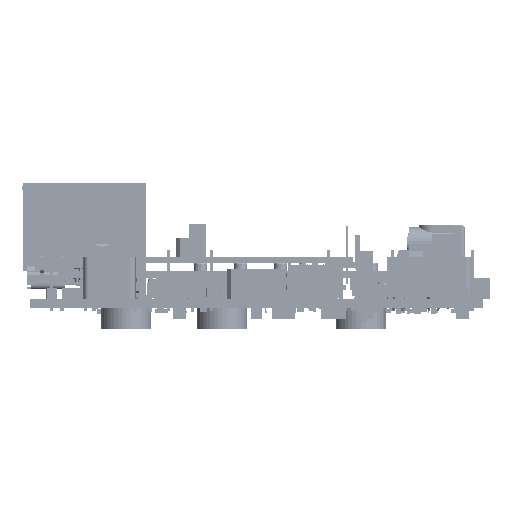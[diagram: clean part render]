
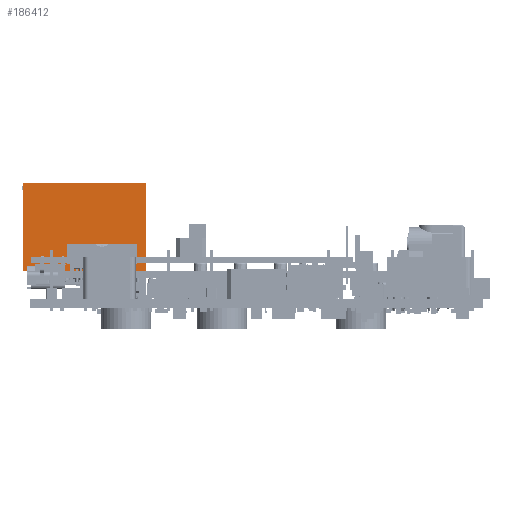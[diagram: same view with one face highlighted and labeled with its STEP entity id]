
A CAD part, left-side view. The second image highlights one B-rep face of the part: STEP entity #186412.
In plain terms, the highlighted planar face has unit normal (-1, 0, 0).
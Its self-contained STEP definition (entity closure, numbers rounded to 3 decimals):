
#186307 = PLANE('',#186308);
#186308 = AXIS2_PLACEMENT_3D('',#186309,#186310,#186311);
#186309 = CARTESIAN_POINT('',(0.064,14.669,0.));
#186310 = DIRECTION('',(0.,-1.,0.));
#186311 = DIRECTION('',(-1.,0.,0.));
#186332 = VERTEX_POINT('',#186333);
#186333 = CARTESIAN_POINT('',(-0.064,14.669,21.082));
#186347 = PLANE('',#186348);
#186348 = AXIS2_PLACEMENT_3D('',#186349,#186350,#186351);
#186349 = CARTESIAN_POINT('',(0.064,14.669,21.082));
#186350 = DIRECTION('',(0.,0.,-1.));
#186351 = DIRECTION('',(-1.,0.,0.));
#186359 = EDGE_CURVE('',#186360,#186332,#186362,.T.);
#186360 = VERTEX_POINT('',#186361);
#186361 = CARTESIAN_POINT('',(-0.064,14.669,0.));
#186362 = SURFACE_CURVE('',#186363,(#186367,#186374),.PCURVE_S1.);
#186363 = LINE('',#186364,#186365);
#186364 = CARTESIAN_POINT('',(-0.064,14.669,0.));
#186365 = VECTOR('',#186366,1.);
#186366 = DIRECTION('',(0.,0.,1.));
#186367 = PCURVE('',#186307,#186368);
#186368 = DEFINITIONAL_REPRESENTATION('',(#186369),#186373);
#186369 = LINE('',#186370,#186371);
#186370 = CARTESIAN_POINT('',(0.127,0.));
#186371 = VECTOR('',#186372,1.);
#186372 = DIRECTION('',(0.,-1.));
#186373 = ( GEOMETRIC_REPRESENTATION_CONTEXT(2) 
PARAMETRIC_REPRESENTATION_CONTEXT() REPRESENTATION_CONTEXT('2D SPACE',''
  ) );
#186374 = PCURVE('',#186375,#186380);
#186375 = PLANE('',#186376);
#186376 = AXIS2_PLACEMENT_3D('',#186377,#186378,#186379);
#186377 = CARTESIAN_POINT('',(-0.064,14.669,0.));
#186378 = DIRECTION('',(1.,0.,0.));
#186379 = DIRECTION('',(0.,-1.,0.));
#186380 = DEFINITIONAL_REPRESENTATION('',(#186381),#186385);
#186381 = LINE('',#186382,#186383);
#186382 = CARTESIAN_POINT('',(0.,0.));
#186383 = VECTOR('',#186384,1.);
#186384 = DIRECTION('',(0.,-1.));
#186385 = ( GEOMETRIC_REPRESENTATION_CONTEXT(2) 
PARAMETRIC_REPRESENTATION_CONTEXT() REPRESENTATION_CONTEXT('2D SPACE',''
  ) );
#186401 = PLANE('',#186402);
#186402 = AXIS2_PLACEMENT_3D('',#186403,#186404,#186405);
#186403 = CARTESIAN_POINT('',(0.064,14.669,0.));
#186404 = DIRECTION('',(0.,0.,-1.));
#186405 = DIRECTION('',(-1.,0.,0.));
#186412 = ADVANCED_FACE('',(#186413),#186375,.F.);
#186413 = FACE_BOUND('',#186414,.F.);
#186414 = EDGE_LOOP('',(#186415,#186416,#186439,#186467));
#186415 = ORIENTED_EDGE('',*,*,#186359,.T.);
#186416 = ORIENTED_EDGE('',*,*,#186417,.T.);
#186417 = EDGE_CURVE('',#186332,#186418,#186420,.T.);
#186418 = VERTEX_POINT('',#186419);
#186419 = CARTESIAN_POINT('',(-0.064,-14.669,21.082));
#186420 = SURFACE_CURVE('',#186421,(#186425,#186432),.PCURVE_S1.);
#186421 = LINE('',#186422,#186423);
#186422 = CARTESIAN_POINT('',(-0.064,14.669,21.082));
#186423 = VECTOR('',#186424,1.);
#186424 = DIRECTION('',(0.,-1.,0.));
#186425 = PCURVE('',#186375,#186426);
#186426 = DEFINITIONAL_REPRESENTATION('',(#186427),#186431);
#186427 = LINE('',#186428,#186429);
#186428 = CARTESIAN_POINT('',(0.,-21.082));
#186429 = VECTOR('',#186430,1.);
#186430 = DIRECTION('',(1.,0.));
#186431 = ( GEOMETRIC_REPRESENTATION_CONTEXT(2) 
PARAMETRIC_REPRESENTATION_CONTEXT() REPRESENTATION_CONTEXT('2D SPACE',''
  ) );
#186432 = PCURVE('',#186347,#186433);
#186433 = DEFINITIONAL_REPRESENTATION('',(#186434),#186438);
#186434 = LINE('',#186435,#186436);
#186435 = CARTESIAN_POINT('',(0.127,0.));
#186436 = VECTOR('',#186437,1.);
#186437 = DIRECTION('',(0.,-1.));
#186438 = ( GEOMETRIC_REPRESENTATION_CONTEXT(2) 
PARAMETRIC_REPRESENTATION_CONTEXT() REPRESENTATION_CONTEXT('2D SPACE',''
  ) );
#186439 = ORIENTED_EDGE('',*,*,#186440,.F.);
#186440 = EDGE_CURVE('',#186441,#186418,#186443,.T.);
#186441 = VERTEX_POINT('',#186442);
#186442 = CARTESIAN_POINT('',(-0.064,-14.669,0.));
#186443 = SURFACE_CURVE('',#186444,(#186448,#186455),.PCURVE_S1.);
#186444 = LINE('',#186445,#186446);
#186445 = CARTESIAN_POINT('',(-0.064,-14.669,0.));
#186446 = VECTOR('',#186447,1.);
#186447 = DIRECTION('',(0.,0.,1.));
#186448 = PCURVE('',#186375,#186449);
#186449 = DEFINITIONAL_REPRESENTATION('',(#186450),#186454);
#186450 = LINE('',#186451,#186452);
#186451 = CARTESIAN_POINT('',(29.337,0.));
#186452 = VECTOR('',#186453,1.);
#186453 = DIRECTION('',(0.,-1.));
#186454 = ( GEOMETRIC_REPRESENTATION_CONTEXT(2) 
PARAMETRIC_REPRESENTATION_CONTEXT() REPRESENTATION_CONTEXT('2D SPACE',''
  ) );
#186455 = PCURVE('',#186456,#186461);
#186456 = PLANE('',#186457);
#186457 = AXIS2_PLACEMENT_3D('',#186458,#186459,#186460);
#186458 = CARTESIAN_POINT('',(-0.064,-14.669,0.));
#186459 = DIRECTION('',(0.,1.,0.));
#186460 = DIRECTION('',(1.,0.,0.));
#186461 = DEFINITIONAL_REPRESENTATION('',(#186462),#186466);
#186462 = LINE('',#186463,#186464);
#186463 = CARTESIAN_POINT('',(0.,0.));
#186464 = VECTOR('',#186465,1.);
#186465 = DIRECTION('',(0.,-1.));
#186466 = ( GEOMETRIC_REPRESENTATION_CONTEXT(2) 
PARAMETRIC_REPRESENTATION_CONTEXT() REPRESENTATION_CONTEXT('2D SPACE',''
  ) );
#186467 = ORIENTED_EDGE('',*,*,#186468,.F.);
#186468 = EDGE_CURVE('',#186360,#186441,#186469,.T.);
#186469 = SURFACE_CURVE('',#186470,(#186474,#186481),.PCURVE_S1.);
#186470 = LINE('',#186471,#186472);
#186471 = CARTESIAN_POINT('',(-0.064,14.669,0.));
#186472 = VECTOR('',#186473,1.);
#186473 = DIRECTION('',(0.,-1.,0.));
#186474 = PCURVE('',#186375,#186475);
#186475 = DEFINITIONAL_REPRESENTATION('',(#186476),#186480);
#186476 = LINE('',#186477,#186478);
#186477 = CARTESIAN_POINT('',(0.,0.));
#186478 = VECTOR('',#186479,1.);
#186479 = DIRECTION('',(1.,0.));
#186480 = ( GEOMETRIC_REPRESENTATION_CONTEXT(2) 
PARAMETRIC_REPRESENTATION_CONTEXT() REPRESENTATION_CONTEXT('2D SPACE',''
  ) );
#186481 = PCURVE('',#186401,#186482);
#186482 = DEFINITIONAL_REPRESENTATION('',(#186483),#186487);
#186483 = LINE('',#186484,#186485);
#186484 = CARTESIAN_POINT('',(0.127,0.));
#186485 = VECTOR('',#186486,1.);
#186486 = DIRECTION('',(0.,-1.));
#186487 = ( GEOMETRIC_REPRESENTATION_CONTEXT(2) 
PARAMETRIC_REPRESENTATION_CONTEXT() REPRESENTATION_CONTEXT('2D SPACE',''
  ) );
